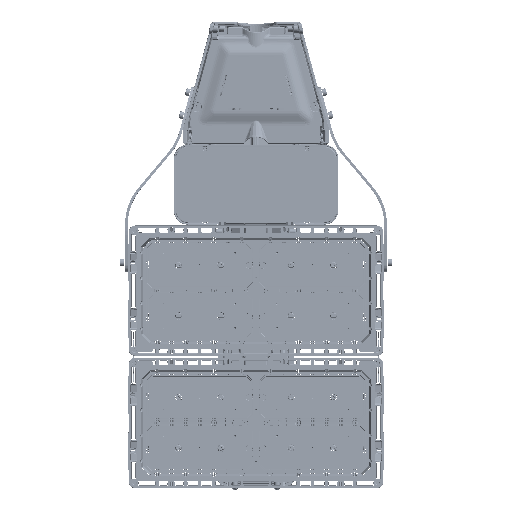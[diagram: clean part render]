
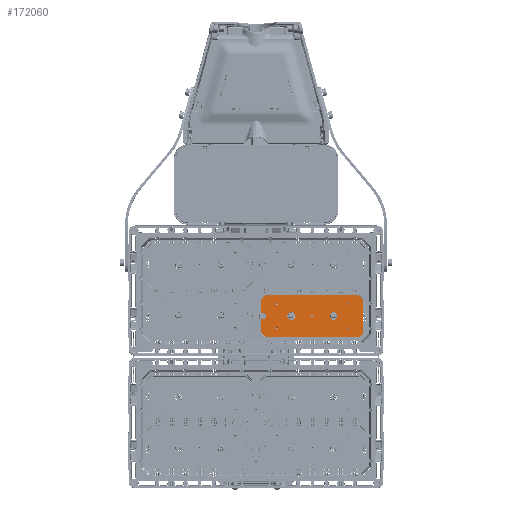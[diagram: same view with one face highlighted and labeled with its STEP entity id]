
A CAD part, front view. The second image highlights one B-rep face of the part: STEP entity #172060.
In plain terms, the highlighted planar face has unit normal (0, -1, 0).
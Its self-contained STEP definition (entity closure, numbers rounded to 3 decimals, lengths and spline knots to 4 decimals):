
#58927=DIRECTION('',(1.,0.,0.));
#58928=VECTOR('',#58927,0.1309);
#58929=CARTESIAN_POINT('',(0.3791,-1.105,7.8083));
#58930=LINE('',#58929,#58928);
#58931=DIRECTION('',(0.,0.,1.));
#58932=VECTOR('',#58931,0.9512);
#58933=CARTESIAN_POINT('',(0.3791,-1.105,7.8083));
#58934=LINE('',#58933,#58932);
#58935=DIRECTION('',(0.707,0.,0.707));
#58936=VECTOR('',#58935,0.4226);
#58937=CARTESIAN_POINT('',(0.3791,-1.105,8.7596));
#58938=LINE('',#58937,#58936);
#58939=DIRECTION('',(1.,0.,0.));
#58940=VECTOR('',#58939,6.6442);
#58941=CARTESIAN_POINT('',(0.6779,-1.105,9.0584));
#58942=LINE('',#58941,#58940);
#58943=DIRECTION('',(0.707,0.,-0.707));
#58944=VECTOR('',#58943,0.4226);
#58945=CARTESIAN_POINT('',(7.3221,-1.105,9.0584));
#58946=LINE('',#58945,#58944);
#58947=DIRECTION('',(0.,0.,-1.));
#58948=VECTOR('',#58947,2.3592);
#58949=CARTESIAN_POINT('',(7.6209,-1.105,8.7596));
#58950=LINE('',#58949,#58948);
#58951=DIRECTION('',(-0.707,0.,-0.707));
#58952=VECTOR('',#58951,0.4226);
#58953=CARTESIAN_POINT('',(7.6209,-1.105,6.4004));
#58954=LINE('',#58953,#58952);
#58955=DIRECTION('',(-1.,0.,0.));
#58956=VECTOR('',#58955,6.6442);
#58957=CARTESIAN_POINT('',(7.3221,-1.105,6.1016));
#58958=LINE('',#58957,#58956);
#58959=DIRECTION('',(-0.707,0.,0.707));
#58960=VECTOR('',#58959,0.4226);
#58961=CARTESIAN_POINT('',(0.6779,-1.105,6.1016));
#58962=LINE('',#58961,#58960);
#58963=DIRECTION('',(0.,0.,1.));
#58964=VECTOR('',#58963,0.9512);
#58965=CARTESIAN_POINT('',(0.3791,-1.105,6.4004));
#58966=LINE('',#58965,#58964);
#58967=DIRECTION('',(1.,0.,0.));
#58968=VECTOR('',#58967,0.1309);
#58969=CARTESIAN_POINT('',(0.3791,-1.105,7.3517));
#58970=LINE('',#58969,#58968);
#58971=CARTESIAN_POINT('',(0.51,-1.105,7.58));
#58972=DIRECTION('',(0.,1.,0.));
#58973=DIRECTION('',(0.,0.,1.));
#58974=AXIS2_PLACEMENT_3D('',#58971,#58972,#58973);
#58976=CARTESIAN_POINT('',(5.5,-1.105,7.581));
#58977=DIRECTION('',(0.,-1.,0.));
#58978=DIRECTION('',(1.,0.,0.));
#58979=AXIS2_PLACEMENT_3D('',#58976,#58977,#58978);
#58981=CARTESIAN_POINT('',(5.5,-1.105,7.581));
#58982=DIRECTION('',(0.,1.,0.));
#58983=DIRECTION('',(1.,0.,0.));
#58984=AXIS2_PLACEMENT_3D('',#58981,#58982,#58983);
#58986=CARTESIAN_POINT('',(2.5,-1.105,7.581));
#58987=DIRECTION('',(0.,-1.,0.));
#58988=DIRECTION('',(1.,0.,0.));
#58989=AXIS2_PLACEMENT_3D('',#58986,#58987,#58988);
#58991=CARTESIAN_POINT('',(2.5,-1.105,7.581));
#58992=DIRECTION('',(0.,1.,0.));
#58993=DIRECTION('',(1.,0.,0.));
#58994=AXIS2_PLACEMENT_3D('',#58991,#58992,#58993);
#58996=CARTESIAN_POINT('',(1.5,-1.105,6.714));
#58997=DIRECTION('',(0.,-1.,0.));
#58998=DIRECTION('',(-1.,0.,0.));
#58999=AXIS2_PLACEMENT_3D('',#58996,#58997,#58998);
#59001=CARTESIAN_POINT('',(1.5,-1.105,6.714));
#59002=DIRECTION('',(0.,-1.,0.));
#59003=DIRECTION('',(1.,0.,0.));
#59004=AXIS2_PLACEMENT_3D('',#59001,#59002,#59003);
#59006=CARTESIAN_POINT('',(1.5,-1.105,8.448));
#59007=DIRECTION('',(0.,-1.,0.));
#59008=DIRECTION('',(-1.,0.,0.));
#59009=AXIS2_PLACEMENT_3D('',#59006,#59007,#59008);
#59011=CARTESIAN_POINT('',(1.5,-1.105,8.448));
#59012=DIRECTION('',(0.,-1.,0.));
#59013=DIRECTION('',(1.,0.,0.));
#59014=AXIS2_PLACEMENT_3D('',#59011,#59012,#59013);
#59016=CARTESIAN_POINT('',(4.,-1.105,7.581));
#59017=DIRECTION('',(0.,-1.,0.));
#59018=DIRECTION('',(-1.,0.,0.));
#59019=AXIS2_PLACEMENT_3D('',#59016,#59017,#59018);
#59021=CARTESIAN_POINT('',(4.,-1.105,7.581));
#59022=DIRECTION('',(0.,-1.,0.));
#59023=DIRECTION('',(1.,0.,0.));
#59024=AXIS2_PLACEMENT_3D('',#59021,#59022,#59023);
#59026=CARTESIAN_POINT('',(6.5,-1.105,6.714));
#59027=DIRECTION('',(0.,-1.,0.));
#59028=DIRECTION('',(-1.,0.,0.));
#59029=AXIS2_PLACEMENT_3D('',#59026,#59027,#59028);
#59031=CARTESIAN_POINT('',(6.5,-1.105,6.714));
#59032=DIRECTION('',(0.,-1.,0.));
#59033=DIRECTION('',(1.,0.,0.));
#59034=AXIS2_PLACEMENT_3D('',#59031,#59032,#59033);
#59036=CARTESIAN_POINT('',(6.5,-1.105,8.448));
#59037=DIRECTION('',(0.,-1.,0.));
#59038=DIRECTION('',(-1.,0.,0.));
#59039=AXIS2_PLACEMENT_3D('',#59036,#59037,#59038);
#59041=CARTESIAN_POINT('',(6.5,-1.105,8.448));
#59042=DIRECTION('',(0.,-1.,0.));
#59043=DIRECTION('',(1.,0.,0.));
#59044=AXIS2_PLACEMENT_3D('',#59041,#59042,#59043);
#168280=CARTESIAN_POINT('',(7.3221,-1.105,6.1016));
#168281=CARTESIAN_POINT('',(0.6779,-1.105,6.1016));
#168282=VERTEX_POINT('',#168280);
#168283=VERTEX_POINT('',#168281);
#168284=CARTESIAN_POINT('',(7.6209,-1.105,8.7596));
#168285=CARTESIAN_POINT('',(7.6209,-1.105,6.4004));
#168286=VERTEX_POINT('',#168284);
#168287=VERTEX_POINT('',#168285);
#168288=CARTESIAN_POINT('',(0.6779,-1.105,9.0584));
#168289=CARTESIAN_POINT('',(7.3221,-1.105,9.0584));
#168290=VERTEX_POINT('',#168288);
#168291=VERTEX_POINT('',#168289);
#168292=CARTESIAN_POINT('',(0.3791,-1.105,6.4004));
#168294=VERTEX_POINT('',#168292);
#169099=CARTESIAN_POINT('',(0.3791,-1.105,8.7596));
#169100=VERTEX_POINT('',#169099);
#169907=CARTESIAN_POINT('',(5.229,-1.105,7.581));
#169908=CARTESIAN_POINT('',(5.771,-1.105,7.581));
#169909=VERTEX_POINT('',#169907);
#169910=VERTEX_POINT('',#169908);
#169915=CARTESIAN_POINT('',(2.229,-1.105,7.581));
#169916=CARTESIAN_POINT('',(2.771,-1.105,7.581));
#169917=VERTEX_POINT('',#169915);
#169918=VERTEX_POINT('',#169916);
#170355=CARTESIAN_POINT('',(1.425,-1.105,6.714));
#170356=CARTESIAN_POINT('',(1.575,-1.105,6.714));
#170357=VERTEX_POINT('',#170355);
#170358=VERTEX_POINT('',#170356);
#170363=CARTESIAN_POINT('',(1.425,-1.105,8.448));
#170364=CARTESIAN_POINT('',(1.575,-1.105,8.448));
#170365=VERTEX_POINT('',#170363);
#170366=VERTEX_POINT('',#170364);
#170367=CARTESIAN_POINT('',(3.925,-1.105,7.581));
#170368=CARTESIAN_POINT('',(4.075,-1.105,7.581));
#170369=VERTEX_POINT('',#170367);
#170370=VERTEX_POINT('',#170368);
#170375=CARTESIAN_POINT('',(6.425,-1.105,6.714));
#170376=CARTESIAN_POINT('',(6.575,-1.105,6.714));
#170377=VERTEX_POINT('',#170375);
#170378=VERTEX_POINT('',#170376);
#170383=CARTESIAN_POINT('',(6.425,-1.105,8.448));
#170384=CARTESIAN_POINT('',(6.575,-1.105,8.448));
#170385=VERTEX_POINT('',#170383);
#170386=VERTEX_POINT('',#170384);
#171665=CARTESIAN_POINT('',(0.3791,-1.105,7.8083));
#171666=CARTESIAN_POINT('',(0.51,-1.105,7.8083));
#171667=VERTEX_POINT('',#171665);
#171668=VERTEX_POINT('',#171666);
#171673=CARTESIAN_POINT('',(0.51,-1.105,7.3517));
#171674=VERTEX_POINT('',#171673);
#171677=CARTESIAN_POINT('',(0.3791,-1.105,7.3517));
#171678=VERTEX_POINT('',#171677);
#171987=CARTESIAN_POINT('',(0.,-1.105,9.38));
#171988=DIRECTION('',(0.,1.,0.));
#171989=DIRECTION('',(1.,0.,0.));
#171990=AXIS2_PLACEMENT_3D('',#171987,#171988,#171989);
#171991=PLANE('',#171990);
#171993=ORIENTED_EDGE('',*,*,#171992,.F.);
#171995=ORIENTED_EDGE('',*,*,#171994,.T.);
#171997=ORIENTED_EDGE('',*,*,#171996,.T.);
#171999=ORIENTED_EDGE('',*,*,#171998,.T.);
#172001=ORIENTED_EDGE('',*,*,#172000,.T.);
#172003=ORIENTED_EDGE('',*,*,#172002,.T.);
#172005=ORIENTED_EDGE('',*,*,#172004,.T.);
#172007=ORIENTED_EDGE('',*,*,#172006,.T.);
#172009=ORIENTED_EDGE('',*,*,#172008,.T.);
#172011=ORIENTED_EDGE('',*,*,#172010,.T.);
#172013=ORIENTED_EDGE('',*,*,#172012,.T.);
#172015=ORIENTED_EDGE('',*,*,#172014,.F.);
#172016=EDGE_LOOP('',(#171993,#171995,#171997,#171999,#172001,#172003,#172005,
#172007,#172009,#172011,#172013,#172015));
#172017=FACE_OUTER_BOUND('',#172016,.F.);
#172019=ORIENTED_EDGE('',*,*,#172018,.T.);
#172021=ORIENTED_EDGE('',*,*,#172020,.F.);
#172022=EDGE_LOOP('',(#172019,#172021));
#172023=FACE_BOUND('',#172022,.F.);
#172025=ORIENTED_EDGE('',*,*,#172024,.T.);
#172027=ORIENTED_EDGE('',*,*,#172026,.F.);
#172028=EDGE_LOOP('',(#172025,#172027));
#172029=FACE_BOUND('',#172028,.F.);
#172031=ORIENTED_EDGE('',*,*,#172030,.T.);
#172033=ORIENTED_EDGE('',*,*,#172032,.T.);
#172034=EDGE_LOOP('',(#172031,#172033));
#172035=FACE_BOUND('',#172034,.F.);
#172037=ORIENTED_EDGE('',*,*,#172036,.T.);
#172039=ORIENTED_EDGE('',*,*,#172038,.T.);
#172040=EDGE_LOOP('',(#172037,#172039));
#172041=FACE_BOUND('',#172040,.F.);
#172043=ORIENTED_EDGE('',*,*,#172042,.T.);
#172045=ORIENTED_EDGE('',*,*,#172044,.T.);
#172046=EDGE_LOOP('',(#172043,#172045));
#172047=FACE_BOUND('',#172046,.F.);
#172049=ORIENTED_EDGE('',*,*,#172048,.T.);
#172051=ORIENTED_EDGE('',*,*,#172050,.T.);
#172052=EDGE_LOOP('',(#172049,#172051));
#172053=FACE_BOUND('',#172052,.F.);
#172055=ORIENTED_EDGE('',*,*,#172054,.T.);
#172057=ORIENTED_EDGE('',*,*,#172056,.T.);
#172058=EDGE_LOOP('',(#172055,#172057));
#172059=FACE_BOUND('',#172058,.F.);
#172060=ADVANCED_FACE('',(#172017,#172023,#172029,#172035,#172041,#172047,
#172053,#172059),#171991,.F.);
#58975=CIRCLE('',#58974,0.2283);
#58980=CIRCLE('',#58979,0.271);
#58985=CIRCLE('',#58984,0.271);
#58990=CIRCLE('',#58989,0.271);
#58995=CIRCLE('',#58994,0.271);
#59000=CIRCLE('',#58999,0.075);
#59005=CIRCLE('',#59004,0.075);
#59010=CIRCLE('',#59009,0.075);
#59015=CIRCLE('',#59014,0.075);
#59020=CIRCLE('',#59019,0.075);
#59025=CIRCLE('',#59024,0.075);
#59030=CIRCLE('',#59029,0.075);
#59035=CIRCLE('',#59034,0.075);
#59040=CIRCLE('',#59039,0.075);
#59045=CIRCLE('',#59044,0.075);
#171992=EDGE_CURVE('',#171667,#171668,#58930,.T.);
#171994=EDGE_CURVE('',#171667,#169100,#58934,.T.);
#171996=EDGE_CURVE('',#169100,#168290,#58938,.T.);
#171998=EDGE_CURVE('',#168290,#168291,#58942,.T.);
#172000=EDGE_CURVE('',#168291,#168286,#58946,.T.);
#172002=EDGE_CURVE('',#168286,#168287,#58950,.T.);
#172004=EDGE_CURVE('',#168287,#168282,#58954,.T.);
#172006=EDGE_CURVE('',#168282,#168283,#58958,.T.);
#172008=EDGE_CURVE('',#168283,#168294,#58962,.T.);
#172010=EDGE_CURVE('',#168294,#171678,#58966,.T.);
#172012=EDGE_CURVE('',#171678,#171674,#58970,.T.);
#172014=EDGE_CURVE('',#171668,#171674,#58975,.T.);
#172018=EDGE_CURVE('',#169910,#169909,#58980,.T.);
#172020=EDGE_CURVE('',#169910,#169909,#58985,.T.);
#172024=EDGE_CURVE('',#169918,#169917,#58990,.T.);
#172026=EDGE_CURVE('',#169918,#169917,#58995,.T.);
#172030=EDGE_CURVE('',#170357,#170358,#59000,.T.);
#172032=EDGE_CURVE('',#170358,#170357,#59005,.T.);
#172036=EDGE_CURVE('',#170365,#170366,#59010,.T.);
#172038=EDGE_CURVE('',#170366,#170365,#59015,.T.);
#172042=EDGE_CURVE('',#170369,#170370,#59020,.T.);
#172044=EDGE_CURVE('',#170370,#170369,#59025,.T.);
#172048=EDGE_CURVE('',#170377,#170378,#59030,.T.);
#172050=EDGE_CURVE('',#170378,#170377,#59035,.T.);
#172054=EDGE_CURVE('',#170385,#170386,#59040,.T.);
#172056=EDGE_CURVE('',#170386,#170385,#59045,.T.);
